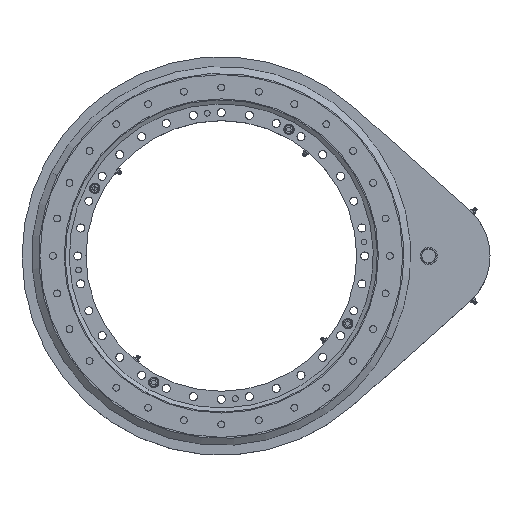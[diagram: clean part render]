
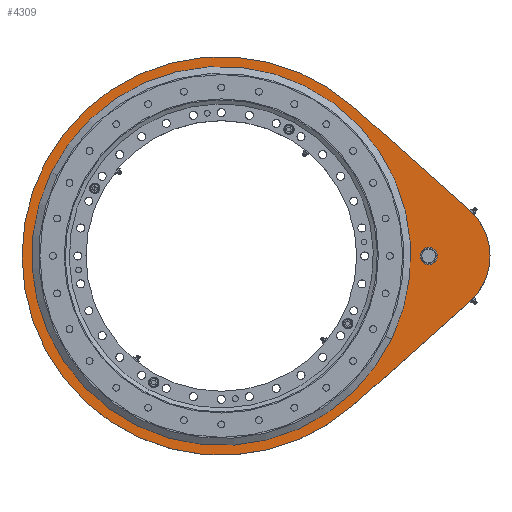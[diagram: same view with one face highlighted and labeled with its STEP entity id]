
A CAD part, top view. The second image highlights one B-rep face of the part: STEP entity #4309.
In plain terms, the highlighted planar face has unit normal (0, 0, 1).
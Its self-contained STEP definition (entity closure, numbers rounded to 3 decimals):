
#74 = CIRCLE ( 'NONE', #6259, 13. ) ;
#194 = AXIS2_PLACEMENT_3D ( 'NONE', #5690, #17195, #26601 ) ;
#357 = CARTESIAN_POINT ( 'NONE',  ( 166.206, 282.062, 637. ) ) ;
#1076 = VERTEX_POINT ( 'NONE', #7533 ) ;
#1394 = EDGE_LOOP ( 'NONE', ( #13555, #27430 ) ) ;
#1654 = CARTESIAN_POINT ( 'NONE',  ( 166.206, -234.582, 637. ) ) ;
#2089 = CARTESIAN_POINT ( 'NONE',  ( -63.981, 23.74, 637. ) ) ;
#2464 = EDGE_CURVE ( 'NONE', #1076, #27765, #8806, .T. ) ;
#2698 = ORIENTED_EDGE ( 'NONE', *, *, #25231, .T. ) ;
#2994 = LINE ( 'NONE', #9563, #20414 ) ;
#3246 = AXIS2_PLACEMENT_3D ( 'NONE', #2089, #18040, #24903 ) ;
#3627 = DIRECTION ( 'NONE',  ( 0., 0., -1. ) ) ;
#3882 = ORIENTED_EDGE ( 'NONE', *, *, #4084, .T. ) ;
#4084 = EDGE_CURVE ( 'NONE', #27765, #8902, #2994, .T. ) ;
#4149 = FACE_BOUND ( 'NONE', #25883, .T. ) ;
#4309 = ADVANCED_FACE ( 'NONE', ( #4573, #22226, #4149 ), #24451, .T. ) ;
#4474 = AXIS2_PLACEMENT_3D ( 'NONE', #12073, #27601, #9827 ) ;
#4484 = DIRECTION ( 'NONE',  ( 1., 0., 0. ) ) ;
#4573 = FACE_BOUND ( 'NONE', #1394, .T. ) ;
#4643 = DIRECTION ( 'NONE',  ( 0., 0., 1. ) ) ;
#4723 = CARTESIAN_POINT ( 'NONE',  ( 283.019, 23.74, 637. ) ) ;
#5626 = ORIENTED_EDGE ( 'NONE', *, *, #10078, .F. ) ;
#5690 = CARTESIAN_POINT ( 'NONE',  ( -63.981, 23.74, 637. ) ) ;
#6259 = AXIS2_PLACEMENT_3D ( 'NONE', #26472, #3627, #12769 ) ;
#7328 = CIRCLE ( 'NONE', #194, 346. ) ;
#7533 = CARTESIAN_POINT ( 'NONE',  ( 366.872, -55.773, 637. ) ) ;
#8382 = CARTESIAN_POINT ( 'NONE',  ( -63.981, 23.74, 637. ) ) ;
#8529 = AXIS2_PLACEMENT_3D ( 'NONE', #8382, #17779, #4484 ) ;
#8534 = VERTEX_POINT ( 'NONE', #21029 ) ;
#8806 = CIRCLE ( 'NONE', #22156, 106.5 ) ;
#8895 = VERTEX_POINT ( 'NONE', #20802 ) ;
#8902 = VERTEX_POINT ( 'NONE', #357 ) ;
#8930 = DIRECTION ( 'NONE',  ( 0.747, 0.665, 0. ) ) ;
#8991 = DIRECTION ( 'NONE',  ( 1., 0., 0. ) ) ;
#9060 = CARTESIAN_POINT ( 'NONE',  ( 366.872, 103.252, 637. ) ) ;
#9278 = CARTESIAN_POINT ( 'NONE',  ( 296.019, 23.74, 637. ) ) ;
#9563 = CARTESIAN_POINT ( 'NONE',  ( 166.206, 282.062, 637. ) ) ;
#9738 = CIRCLE ( 'NONE', #4474, 324. ) ;
#9827 = DIRECTION ( 'NONE',  ( 1., 0., 0. ) ) ;
#10078 = EDGE_CURVE ( 'NONE', #10697, #27853, #17589, .T. ) ;
#10320 = CIRCLE ( 'NONE', #27010, 13. ) ;
#10697 = VERTEX_POINT ( 'NONE', #14533 ) ;
#12073 = CARTESIAN_POINT ( 'NONE',  ( -63.981, 23.74, 637. ) ) ;
#12705 = CARTESIAN_POINT ( 'NONE',  ( -63.981, 23.74, 637. ) ) ;
#12769 = DIRECTION ( 'NONE',  ( -1., 0., 0. ) ) ;
#13199 = ORIENTED_EDGE ( 'NONE', *, *, #19993, .F. ) ;
#13555 = ORIENTED_EDGE ( 'NONE', *, *, #14953, .T. ) ;
#13568 = ORIENTED_EDGE ( 'NONE', *, *, #2464, .T. ) ;
#14196 = DIRECTION ( 'NONE',  ( -0.747, 0.665, 0. ) ) ;
#14533 = CARTESIAN_POINT ( 'NONE',  ( 260.019, 23.74, 637. ) ) ;
#14953 = EDGE_CURVE ( 'NONE', #19964, #19995, #10320, .T. ) ;
#16080 = AXIS2_PLACEMENT_3D ( 'NONE', #12705, #21808, #17462 ) ;
#16184 = CARTESIAN_POINT ( 'NONE',  ( 296.019, 23.74, 637. ) ) ;
#17195 = DIRECTION ( 'NONE',  ( 0., 0., 1. ) ) ;
#17197 = ORIENTED_EDGE ( 'NONE', *, *, #29508, .T. ) ;
#17462 = DIRECTION ( 'NONE',  ( 1., 0., 0. ) ) ;
#17589 = CIRCLE ( 'NONE', #8529, 324. ) ;
#17779 = DIRECTION ( 'NONE',  ( 0., 0., 1. ) ) ;
#18040 = DIRECTION ( 'NONE',  ( 0., 0., 1. ) ) ;
#18386 = DIRECTION ( 'NONE',  ( 0., 0., -1. ) ) ;
#18494 = CARTESIAN_POINT ( 'NONE',  ( -387.981, 23.74, 637. ) ) ;
#19812 = EDGE_CURVE ( 'NONE', #8895, #1076, #29412, .T. ) ;
#19964 = VERTEX_POINT ( 'NONE', #4723 ) ;
#19993 = EDGE_CURVE ( 'NONE', #27853, #10697, #9738, .T. ) ;
#19995 = VERTEX_POINT ( 'NONE', #20586 ) ;
#20414 = VECTOR ( 'NONE', #14196, 1000. ) ;
#20586 = CARTESIAN_POINT ( 'NONE',  ( 309.019, 23.74, 637. ) ) ;
#20802 = CARTESIAN_POINT ( 'NONE',  ( 166.206, -234.582, 637. ) ) ;
#21029 = CARTESIAN_POINT ( 'NONE',  ( -409.981, 23.74, 637. ) ) ;
#21808 = DIRECTION ( 'NONE',  ( 0., 0., 1. ) ) ;
#22156 = AXIS2_PLACEMENT_3D ( 'NONE', #16184, #4643, #8991 ) ;
#22226 = FACE_OUTER_BOUND ( 'NONE', #29025, .T. ) ;
#24451 = PLANE ( 'NONE',  #3246 ) ;
#24903 = DIRECTION ( 'NONE',  ( 1., 0., 0. ) ) ;
#25125 = CIRCLE ( 'NONE', #16080, 346. ) ;
#25231 = EDGE_CURVE ( 'NONE', #8534, #8895, #25125, .T. ) ;
#25883 = EDGE_LOOP ( 'NONE', ( #5626, #13199 ) ) ;
#25951 = VECTOR ( 'NONE', #8930, 1000. ) ;
#26472 = CARTESIAN_POINT ( 'NONE',  ( 296.019, 23.74, 637. ) ) ;
#26601 = DIRECTION ( 'NONE',  ( 1., 0., 0. ) ) ;
#27010 = AXIS2_PLACEMENT_3D ( 'NONE', #9278, #18386, #27497 ) ;
#27430 = ORIENTED_EDGE ( 'NONE', *, *, #28493, .T. ) ;
#27497 = DIRECTION ( 'NONE',  ( -1., 0., 0. ) ) ;
#27601 = DIRECTION ( 'NONE',  ( 0., 0., 1. ) ) ;
#27765 = VERTEX_POINT ( 'NONE', #9060 ) ;
#27853 = VERTEX_POINT ( 'NONE', #18494 ) ;
#28493 = EDGE_CURVE ( 'NONE', #19995, #19964, #74, .T. ) ;
#28870 = ORIENTED_EDGE ( 'NONE', *, *, #19812, .T. ) ;
#29025 = EDGE_LOOP ( 'NONE', ( #17197, #2698, #28870, #13568, #3882 ) ) ;
#29412 = LINE ( 'NONE', #1654, #25951 ) ;
#29508 = EDGE_CURVE ( 'NONE', #8902, #8534, #7328, .T. ) ;
